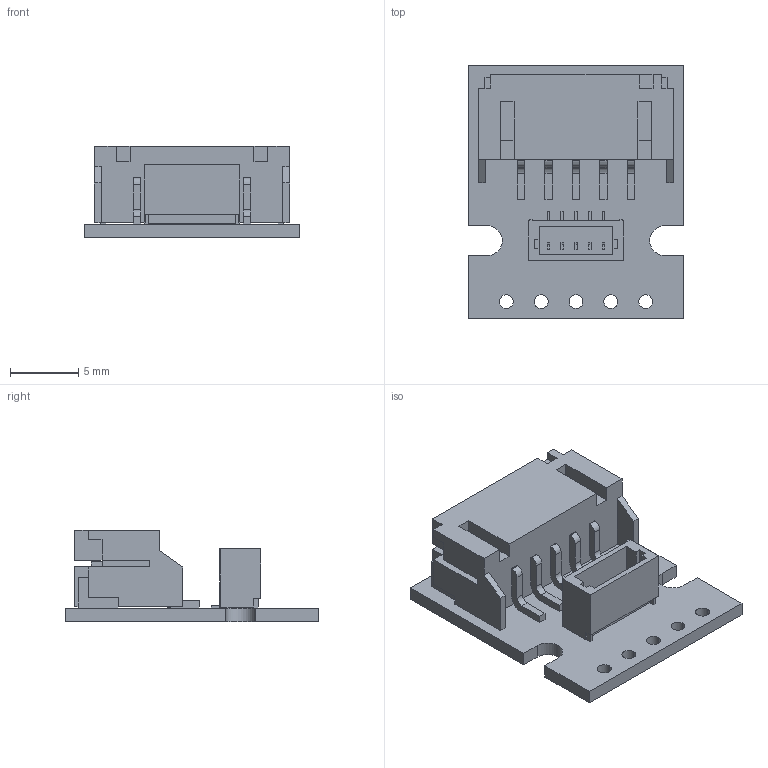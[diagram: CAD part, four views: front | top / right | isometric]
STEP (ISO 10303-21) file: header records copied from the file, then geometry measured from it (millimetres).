
FILE_DESCRIPTION (( 'STEP AP214' ), '1' );
FILE_NAME ('con11a_side_entry.STEP', '2025-08-19T02:27:17', ( '' ), ( '' ), 'SwSTEP 2.0', 'SolidWorks 2025', '' );
FILE_SCHEMA (( 'AUTOMOTIVE_DESIGN' ));
Length unit declared in the file: millimetre
Products named in the file (1): con11a_side_entry
Bounding box: 15.75 x 18.54 x 6.72 mm (x, y, z)
Volume: 577.2 mm3; surface area: 1518.4 mm2
Topology: 1 solids, 1 shells, 631 faces, 1747 edges, 1160 vertices
Faces by surface type: plane 435, bspline 168, cylinder 28
Entity records: 33129 total; most frequent: CARTESIAN_POINT 11059, ORIENTED_EDGE 3494, DIRECTION 2395, EDGE_CURVE 1747, VECTOR 1355, LINE 1355, VERTEX_POINT 1160, EDGE_LOOP 711
